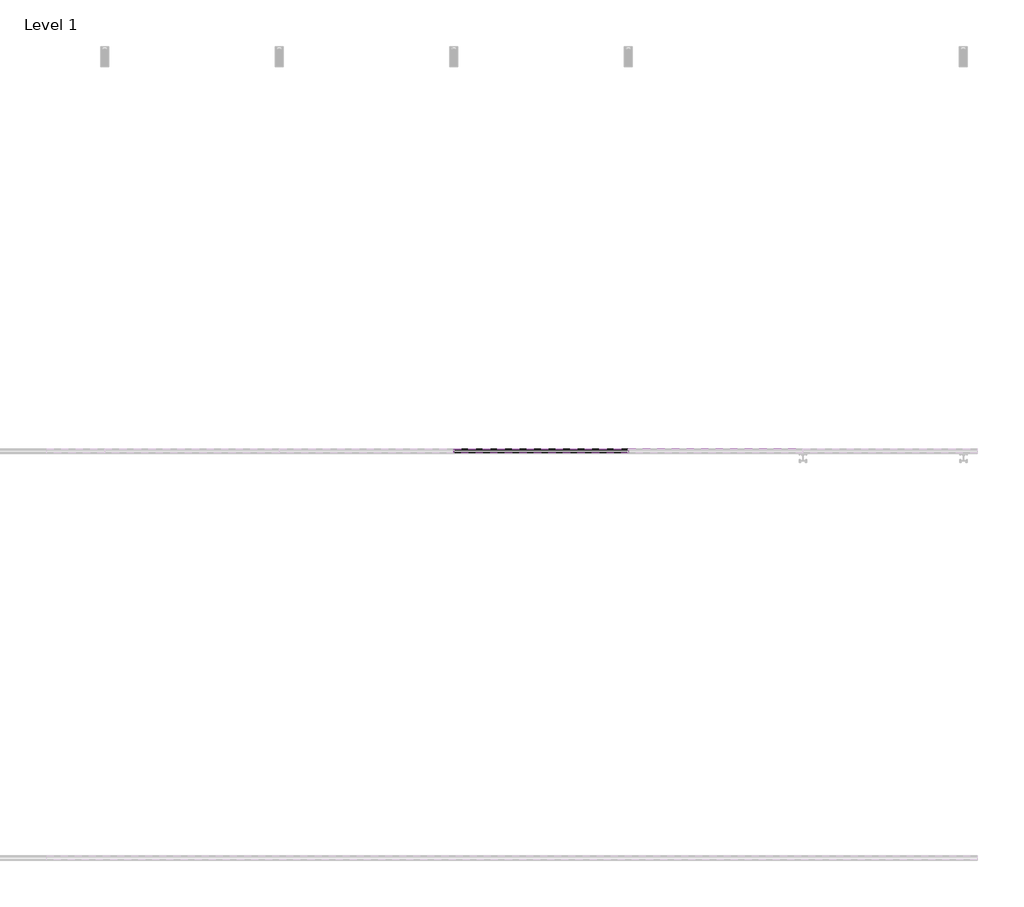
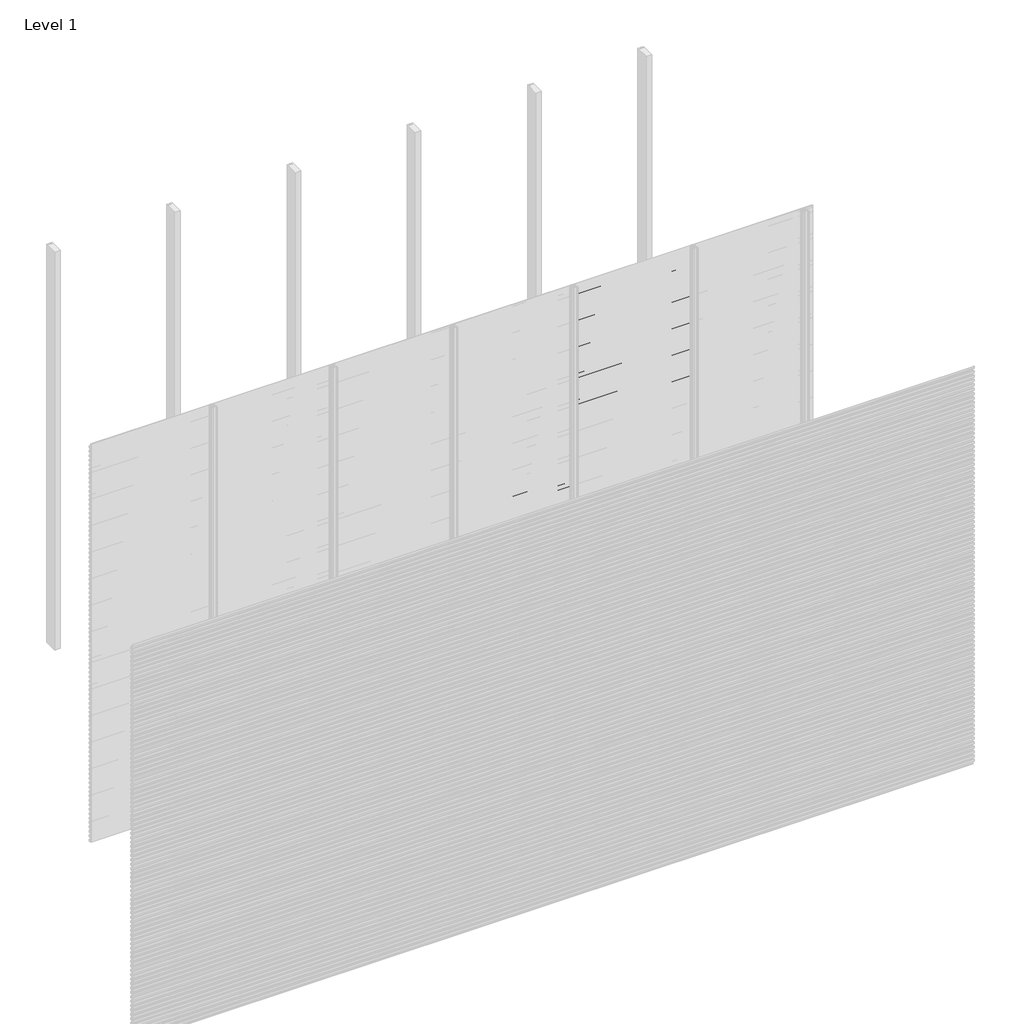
# One storey, part 29 of 96: 77 proxies.
"""IFC4 building model written with IfcOpenShell, lengths in millimetres."""

from ifc_helpers import new_model, si_unit, frame, origin, place, context, project, spatial, polyline, outline, extrude, element, save

model = new_model("IFC4")

# Units and contexts
model_context = context("Model", 3, world=origin())
ifc_project = project(units=[si_unit("LENGTHUNIT", "METRE", prefix="MILLI")], contexts=[model_context])

# Site, building, storey
site = spatial("IfcSite", under=ifc_project)
building = spatial("IfcBuilding", under=site)
storey = spatial("IfcBuildingStorey", under=building, Name="Level 1", Elevation=0.0)

# Proxies
placement = place(None, origin())
element("IfcBuildingElementProxy", 1, Name="Wall Sweeps", at=placement, inside=storey, context=model_context, shape_type="SweptSolid", body=[
    extrude(outline(polyline([(-41977.6, 1539.8655033), (-41977.6, 1525.5779188), (-41982.4114965, 1522.8), (-41982.4114965, 1524.0701706), (-41978.85, 1526.1264016), (-41978.85, 1539.1437382), (-41998.0, 1550.2000799), (-41998.0, 1565.1), (-41996.75, 1565.1), (-41996.75, 1550.9217609), (-41977.6, 1539.8655033)])), frame((3428.5714286, 0.0, 0.0), z_axis=(1.0, 0.0, 0.0), x_axis=(0.0, 1.0, 0.0)), (0.0, 0.0, 1.0), 857.1428571),
])
element("IfcBuildingElementProxy", 2, Name="Wall Sweeps", at=placement, inside=storey, context=model_context, shape_type="SweptSolid", body=[
    extrude(outline(polyline([(-41977.6, 1506.5655033), (-41977.6, 1492.2779188), (-41982.4114965, 1489.5), (-41982.4114965, 1490.7701706), (-41978.85, 1492.8264016), (-41978.85, 1505.8437382), (-41998.0, 1516.9000799), (-41998.0, 1531.8), (-41996.75, 1531.8), (-41996.75, 1517.6217609), (-41977.6, 1506.5655033)])), frame((3428.5714286, 0.0, 0.0), z_axis=(1.0, 0.0, 0.0), x_axis=(0.0, 1.0, 0.0)), (0.0, 0.0, 1.0), 857.1428571),
])
element("IfcBuildingElementProxy", 3, Name="Wall Sweeps", at=placement, inside=storey, context=model_context, shape_type="SweptSolid", body=[
    extrude(outline(polyline([(-41977.6, 1473.2655033), (-41977.6, 1458.9779188), (-41982.4114965, 1456.2), (-41982.4114965, 1457.4701706), (-41978.85, 1459.5264016), (-41978.85, 1472.5437382), (-41998.0, 1483.6000799), (-41998.0, 1498.5), (-41996.75, 1498.5), (-41996.75, 1484.3217609), (-41977.6, 1473.2655033)])), frame((3428.5714286, 0.0, 0.0), z_axis=(1.0, 0.0, 0.0), x_axis=(0.0, 1.0, 0.0)), (0.0, 0.0, 1.0), 857.1428571),
])
element("IfcBuildingElementProxy", 4, Name="Wall Sweeps", at=placement, inside=storey, context=model_context, shape_type="SweptSolid", body=[
    extrude(outline(polyline([(-41977.6, 1439.9655033), (-41977.6, 1425.6779188), (-41982.4114965, 1422.9), (-41982.4114965, 1424.1701706), (-41978.85, 1426.2264016), (-41978.85, 1439.2437382), (-41998.0, 1450.3000799), (-41998.0, 1465.2), (-41996.75, 1465.2), (-41996.75, 1451.0217609), (-41977.6, 1439.9655033)])), frame((3428.5714286, 0.0, 0.0), z_axis=(1.0, 0.0, 0.0), x_axis=(0.0, 1.0, 0.0)), (0.0, 0.0, 1.0), 857.1428571),
])
element("IfcBuildingElementProxy", 5, Name="Wall Sweeps", at=placement, inside=storey, context=model_context, shape_type="SweptSolid", body=[
    extrude(outline(polyline([(-41977.6, 1406.6655033), (-41977.6, 1392.3779188), (-41982.4114965, 1389.6), (-41982.4114965, 1390.8701706), (-41978.85, 1392.9264016), (-41978.85, 1405.9437382), (-41998.0, 1417.0000799), (-41998.0, 1431.9), (-41996.75, 1431.9), (-41996.75, 1417.7217609), (-41977.6, 1406.6655033)])), frame((3428.5714286, 0.0, 0.0), z_axis=(1.0, 0.0, 0.0), x_axis=(0.0, 1.0, 0.0)), (0.0, 0.0, 1.0), 857.1428571),
])
element("IfcBuildingElementProxy", 6, Name="Wall Sweeps", at=placement, inside=storey, context=model_context, shape_type="SweptSolid", body=[
    extrude(outline(polyline([(-41977.6, 1373.3655033), (-41977.6, 1359.0779188), (-41982.4114965, 1356.3), (-41982.4114965, 1357.5701706), (-41978.85, 1359.6264016), (-41978.85, 1372.6437382), (-41998.0, 1383.7000799), (-41998.0, 1398.6), (-41996.75, 1398.6), (-41996.75, 1384.4217609), (-41977.6, 1373.3655033)])), frame((3428.5714286, 0.0, 0.0), z_axis=(1.0, 0.0, 0.0), x_axis=(0.0, 1.0, 0.0)), (0.0, 0.0, 1.0), 857.1428571),
])
element("IfcBuildingElementProxy", 7, Name="Wall Sweeps", at=placement, inside=storey, context=model_context, shape_type="SweptSolid", body=[
    extrude(outline(polyline([(-41977.6, 1340.0655033), (-41977.6, 1325.7779188), (-41982.4114965, 1323.0), (-41982.4114965, 1324.2701706), (-41978.85, 1326.3264016), (-41978.85, 1339.3437382), (-41998.0, 1350.4000799), (-41998.0, 1365.3), (-41996.75, 1365.3), (-41996.75, 1351.1217609), (-41977.6, 1340.0655033)])), frame((3428.5714286, 0.0, 0.0), z_axis=(1.0, 0.0, 0.0), x_axis=(0.0, 1.0, 0.0)), (0.0, 0.0, 1.0), 857.1428571),
])
element("IfcBuildingElementProxy", 8, Name="Wall Sweeps", at=placement, inside=storey, context=model_context, shape_type="SweptSolid", body=[
    extrude(outline(polyline([(-41977.6, 1306.7655033), (-41977.6, 1292.4779188), (-41982.4114965, 1289.7), (-41982.4114965, 1290.9701706), (-41978.85, 1293.0264016), (-41978.85, 1306.0437382), (-41998.0, 1317.1000799), (-41998.0, 1332.0), (-41996.75, 1332.0), (-41996.75, 1317.8217609), (-41977.6, 1306.7655033)])), frame((3428.5714286, 0.0, 0.0), z_axis=(1.0, 0.0, 0.0), x_axis=(0.0, 1.0, 0.0)), (0.0, 0.0, 1.0), 857.1428571),
])
element("IfcBuildingElementProxy", 9, Name="Wall Sweeps", at=placement, inside=storey, context=model_context, shape_type="SweptSolid", body=[
    extrude(outline(polyline([(-41977.6, 1273.4655033), (-41977.6, 1259.1779188), (-41982.4114965, 1256.4), (-41982.4114965, 1257.6701706), (-41978.85, 1259.7264016), (-41978.85, 1272.7437382), (-41998.0, 1283.8000799), (-41998.0, 1298.7), (-41996.75, 1298.7), (-41996.75, 1284.5217609), (-41977.6, 1273.4655033)])), frame((3428.5714286, 0.0, 0.0), z_axis=(1.0, 0.0, 0.0), x_axis=(0.0, 1.0, 0.0)), (0.0, 0.0, 1.0), 857.1428571),
])
element("IfcBuildingElementProxy", 10, Name="Wall Sweeps", at=placement, inside=storey, context=model_context, shape_type="SweptSolid", body=[
    extrude(outline(polyline([(-41977.6, 1240.1655033), (-41977.6, 1225.8779188), (-41982.4114965, 1223.1), (-41982.4114965, 1224.3701706), (-41978.85, 1226.4264016), (-41978.85, 1239.4437382), (-41998.0, 1250.5000799), (-41998.0, 1265.4), (-41996.75, 1265.4), (-41996.75, 1251.2217609), (-41977.6, 1240.1655033)])), frame((3428.5714286, 0.0, 0.0), z_axis=(1.0, 0.0, 0.0), x_axis=(0.0, 1.0, 0.0)), (0.0, 0.0, 1.0), 857.1428571),
])
element("IfcBuildingElementProxy", 11, Name="Wall Sweeps", at=placement, inside=storey, context=model_context, shape_type="SweptSolid", body=[
    extrude(outline(polyline([(-41977.6, 1206.8655033), (-41977.6, 1192.5779188), (-41982.4114965, 1189.8), (-41982.4114965, 1191.0701706), (-41978.85, 1193.1264016), (-41978.85, 1206.1437382), (-41998.0, 1217.2000799), (-41998.0, 1232.1), (-41996.75, 1232.1), (-41996.75, 1217.9217609), (-41977.6, 1206.8655033)])), frame((3428.5714286, 0.0, 0.0), z_axis=(1.0, 0.0, 0.0), x_axis=(0.0, 1.0, 0.0)), (0.0, 0.0, 1.0), 857.1428571),
])
element("IfcBuildingElementProxy", 12, Name="Wall Sweeps", at=placement, inside=storey, context=model_context, shape_type="SweptSolid", body=[
    extrude(outline(polyline([(-41977.6, 1173.5655033), (-41977.6, 1159.2779188), (-41982.4114965, 1156.5), (-41982.4114965, 1157.7701706), (-41978.85, 1159.8264016), (-41978.85, 1172.8437382), (-41998.0, 1183.9000799), (-41998.0, 1198.8), (-41996.75, 1198.8), (-41996.75, 1184.6217609), (-41977.6, 1173.5655033)])), frame((3428.5714286, 0.0, 0.0), z_axis=(1.0, 0.0, 0.0), x_axis=(0.0, 1.0, 0.0)), (0.0, 0.0, 1.0), 857.1428571),
])
element("IfcBuildingElementProxy", 13, Name="Wall Sweeps", at=placement, inside=storey, context=model_context, shape_type="SweptSolid", body=[
    extrude(outline(polyline([(-41977.6, 1140.2655033), (-41977.6, 1125.9779188), (-41982.4114965, 1123.2), (-41982.4114965, 1124.4701706), (-41978.85, 1126.5264016), (-41978.85, 1139.5437382), (-41998.0, 1150.6000799), (-41998.0, 1165.5), (-41996.75, 1165.5), (-41996.75, 1151.3217609), (-41977.6, 1140.2655033)])), frame((3428.5714286, 0.0, 0.0), z_axis=(1.0, 0.0, 0.0), x_axis=(0.0, 1.0, 0.0)), (0.0, 0.0, 1.0), 857.1428571),
])
element("IfcBuildingElementProxy", 14, Name="Wall Sweeps", at=placement, inside=storey, context=model_context, shape_type="SweptSolid", body=[
    extrude(outline(polyline([(-41977.6, 1106.9655033), (-41977.6, 1092.6779188), (-41982.4114965, 1089.9), (-41982.4114965, 1091.1701706), (-41978.85, 1093.2264016), (-41978.85, 1106.2437382), (-41998.0, 1117.3000799), (-41998.0, 1132.2), (-41996.75, 1132.2), (-41996.75, 1118.0217609), (-41977.6, 1106.9655033)])), frame((3428.5714286, 0.0, 0.0), z_axis=(1.0, 0.0, 0.0), x_axis=(0.0, 1.0, 0.0)), (0.0, 0.0, 1.0), 857.1428571),
])
element("IfcBuildingElementProxy", 15, Name="Wall Sweeps", at=placement, inside=storey, context=model_context, shape_type="SweptSolid", body=[
    extrude(outline(polyline([(-41977.6, 1073.6655033), (-41977.6, 1059.3779188), (-41982.4114965, 1056.6), (-41982.4114965, 1057.8701706), (-41978.85, 1059.9264016), (-41978.85, 1072.9437382), (-41998.0, 1084.0000799), (-41998.0, 1098.9), (-41996.75, 1098.9), (-41996.75, 1084.7217609), (-41977.6, 1073.6655033)])), frame((3428.5714286, 0.0, 0.0), z_axis=(1.0, 0.0, 0.0), x_axis=(0.0, 1.0, 0.0)), (0.0, 0.0, 1.0), 857.1428571),
])
element("IfcBuildingElementProxy", 16, Name="Wall Sweeps", at=placement, inside=storey, context=model_context, shape_type="SweptSolid", body=[
    extrude(outline(polyline([(-41977.6, 1040.3655033), (-41977.6, 1026.0779188), (-41982.4114965, 1023.3), (-41982.4114965, 1024.5701706), (-41978.85, 1026.6264016), (-41978.85, 1039.6437382), (-41998.0, 1050.7000799), (-41998.0, 1065.6), (-41996.75, 1065.6), (-41996.75, 1051.4217609), (-41977.6, 1040.3655033)])), frame((3428.5714286, 0.0, 0.0), z_axis=(1.0, 0.0, 0.0), x_axis=(0.0, 1.0, 0.0)), (0.0, 0.0, 1.0), 857.1428571),
])
element("IfcBuildingElementProxy", 17, Name="Wall Sweeps", at=placement, inside=storey, context=model_context, shape_type="SweptSolid", body=[
    extrude(outline(polyline([(-41977.6, 1007.0655033), (-41977.6, 992.7779188), (-41982.4114965, 990.0), (-41982.4114965, 991.2701706), (-41978.85, 993.3264016), (-41978.85, 1006.3437382), (-41998.0, 1017.4000799), (-41998.0, 1032.3), (-41996.75, 1032.3), (-41996.75, 1018.1217609), (-41977.6, 1007.0655033)])), frame((3428.5714286, 0.0, 0.0), z_axis=(1.0, 0.0, 0.0), x_axis=(0.0, 1.0, 0.0)), (0.0, 0.0, 1.0), 857.1428571),
])
element("IfcBuildingElementProxy", 18, Name="Wall Sweeps", at=placement, inside=storey, context=model_context, shape_type="SweptSolid", body=[
    extrude(outline(polyline([(-41977.6, 973.7655033), (-41977.6, 959.4779188), (-41982.4114965, 956.7), (-41982.4114965, 957.9701706), (-41978.85, 960.0264016), (-41978.85, 973.0437382), (-41998.0, 984.1000799), (-41998.0, 999.0), (-41996.75, 999.0), (-41996.75, 984.8217609), (-41977.6, 973.7655033)])), frame((3428.5714286, 0.0, 0.0), z_axis=(1.0, 0.0, 0.0), x_axis=(0.0, 1.0, 0.0)), (0.0, 0.0, 1.0), 857.1428571),
])
element("IfcBuildingElementProxy", 19, Name="Wall Sweeps", at=placement, inside=storey, context=model_context, shape_type="SweptSolid", body=[
    extrude(outline(polyline([(-41977.6, 940.4655033), (-41977.6, 926.1779188), (-41982.4114965, 923.4), (-41982.4114965, 924.6701706), (-41978.85, 926.7264016), (-41978.85, 939.7437382), (-41998.0, 950.8000799), (-41998.0, 965.7), (-41996.75, 965.7), (-41996.75, 951.5217609), (-41977.6, 940.4655033)])), frame((3428.5714286, 0.0, 0.0), z_axis=(1.0, 0.0, 0.0), x_axis=(0.0, 1.0, 0.0)), (0.0, 0.0, 1.0), 857.1428571),
])
element("IfcBuildingElementProxy", 20, Name="Wall Sweeps", at=placement, inside=storey, context=model_context, shape_type="SweptSolid", body=[
    extrude(outline(polyline([(-41977.6, 907.1655033), (-41977.6, 892.8779188), (-41982.4114965, 890.1), (-41982.4114965, 891.3701706), (-41978.85, 893.4264016), (-41978.85, 906.4437382), (-41998.0, 917.5000799), (-41998.0, 932.4), (-41996.75, 932.4), (-41996.75, 918.2217609), (-41977.6, 907.1655033)])), frame((3428.5714286, 0.0, 0.0), z_axis=(1.0, 0.0, 0.0), x_axis=(0.0, 1.0, 0.0)), (0.0, 0.0, 1.0), 857.1428571),
])
element("IfcBuildingElementProxy", 21, Name="Wall Sweeps", at=placement, inside=storey, context=model_context, shape_type="SweptSolid", body=[
    extrude(outline(polyline([(-41977.6, 873.8655033), (-41977.6, 859.5779188), (-41982.4114965, 856.8), (-41982.4114965, 858.0701706), (-41978.85, 860.1264016), (-41978.85, 873.1437382), (-41998.0, 884.2000799), (-41998.0, 899.1), (-41996.75, 899.1), (-41996.75, 884.9217609), (-41977.6, 873.8655033)])), frame((3428.5714286, 0.0, 0.0), z_axis=(1.0, 0.0, 0.0), x_axis=(0.0, 1.0, 0.0)), (0.0, 0.0, 1.0), 857.1428571),
])
element("IfcBuildingElementProxy", 22, Name="Wall Sweeps", at=placement, inside=storey, context=model_context, shape_type="SweptSolid", body=[
    extrude(outline(polyline([(-41977.6, 840.5655033), (-41977.6, 826.2779188), (-41982.4114965, 823.5), (-41982.4114965, 824.7701706), (-41978.85, 826.8264016), (-41978.85, 839.8437382), (-41998.0, 850.9000799), (-41998.0, 865.8), (-41996.75, 865.8), (-41996.75, 851.6217609), (-41977.6, 840.5655033)])), frame((3428.5714286, 0.0, 0.0), z_axis=(1.0, 0.0, 0.0), x_axis=(0.0, 1.0, 0.0)), (0.0, 0.0, 1.0), 857.1428571),
])
element("IfcBuildingElementProxy", 23, Name="Wall Sweeps", at=placement, inside=storey, context=model_context, shape_type="SweptSolid", body=[
    extrude(outline(polyline([(-41977.6, 807.2655033), (-41977.6, 792.9779188), (-41982.4114965, 790.2), (-41982.4114965, 791.4701706), (-41978.85, 793.5264016), (-41978.85, 806.5437382), (-41998.0, 817.6000799), (-41998.0, 832.5), (-41996.75, 832.5), (-41996.75, 818.3217609), (-41977.6, 807.2655033)])), frame((3428.5714286, 0.0, 0.0), z_axis=(1.0, 0.0, 0.0), x_axis=(0.0, 1.0, 0.0)), (0.0, 0.0, 1.0), 857.1428571),
])
element("IfcBuildingElementProxy", 24, Name="Wall Sweeps", at=placement, inside=storey, context=model_context, shape_type="SweptSolid", body=[
    extrude(outline(polyline([(-41977.6, 773.9655033), (-41977.6, 759.6779188), (-41982.4114965, 756.9), (-41982.4114965, 758.1701706), (-41978.85, 760.2264016), (-41978.85, 773.2437382), (-41998.0, 784.3000799), (-41998.0, 799.2), (-41996.75, 799.2), (-41996.75, 785.0217609), (-41977.6, 773.9655033)])), frame((3428.5714286, 0.0, 0.0), z_axis=(1.0, 0.0, 0.0), x_axis=(0.0, 1.0, 0.0)), (0.0, 0.0, 1.0), 857.1428571),
])
element("IfcBuildingElementProxy", 25, Name="Wall Sweeps", at=placement, inside=storey, context=model_context, shape_type="SweptSolid", body=[
    extrude(outline(polyline([(-41977.6, 740.6655033), (-41977.6, 726.3779188), (-41982.4114965, 723.6), (-41982.4114965, 724.8701706), (-41978.85, 726.9264016), (-41978.85, 739.9437382), (-41998.0, 751.0000799), (-41998.0, 765.9), (-41996.75, 765.9), (-41996.75, 751.7217609), (-41977.6, 740.6655033)])), frame((3428.5714286, 0.0, 0.0), z_axis=(1.0, 0.0, 0.0), x_axis=(0.0, 1.0, 0.0)), (0.0, 0.0, 1.0), 857.1428571),
])
element("IfcBuildingElementProxy", 26, Name="Wall Sweeps", at=placement, inside=storey, context=model_context, shape_type="SweptSolid", body=[
    extrude(outline(polyline([(-41977.6, 707.3655033), (-41977.6, 693.0779188), (-41982.4114965, 690.3), (-41982.4114965, 691.5701706), (-41978.85, 693.6264016), (-41978.85, 706.6437382), (-41998.0, 717.7000799), (-41998.0, 732.6), (-41996.75, 732.6), (-41996.75, 718.4217609), (-41977.6, 707.3655033)])), frame((3428.5714286, 0.0, 0.0), z_axis=(1.0, 0.0, 0.0), x_axis=(0.0, 1.0, 0.0)), (0.0, 0.0, 1.0), 857.1428571),
])
element("IfcBuildingElementProxy", 27, Name="Wall Sweeps", at=placement, inside=storey, context=model_context, shape_type="SweptSolid", body=[
    extrude(outline(polyline([(-41977.6, 674.0655033), (-41977.6, 659.7779188), (-41982.4114965, 657.0), (-41982.4114965, 658.2701706), (-41978.85, 660.3264016), (-41978.85, 673.3437382), (-41998.0, 684.4000799), (-41998.0, 699.3), (-41996.75, 699.3), (-41996.75, 685.1217609), (-41977.6, 674.0655033)])), frame((3428.5714286, 0.0, 0.0), z_axis=(1.0, 0.0, 0.0), x_axis=(0.0, 1.0, 0.0)), (0.0, 0.0, 1.0), 857.1428571),
])
element("IfcBuildingElementProxy", 28, Name="Wall Sweeps", at=placement, inside=storey, context=model_context, shape_type="SweptSolid", body=[
    extrude(outline(polyline([(-41977.6, 640.7655033), (-41977.6, 626.4779188), (-41982.4114965, 623.7), (-41982.4114965, 624.9701706), (-41978.85, 627.0264016), (-41978.85, 640.0437382), (-41998.0, 651.1000799), (-41998.0, 666.0), (-41996.75, 666.0), (-41996.75, 651.8217609), (-41977.6, 640.7655033)])), frame((3428.5714286, 0.0, 0.0), z_axis=(1.0, 0.0, 0.0), x_axis=(0.0, 1.0, 0.0)), (0.0, 0.0, 1.0), 857.1428571),
])
element("IfcBuildingElementProxy", 29, Name="Wall Sweeps", at=placement, inside=storey, context=model_context, shape_type="SweptSolid", body=[
    extrude(outline(polyline([(-41977.6, 607.4655033), (-41977.6, 593.1779188), (-41982.4114965, 590.4), (-41982.4114965, 591.6701706), (-41978.85, 593.7264016), (-41978.85, 606.7437382), (-41998.0, 617.8000799), (-41998.0, 632.7), (-41996.75, 632.7), (-41996.75, 618.5217609), (-41977.6, 607.4655033)])), frame((3428.5714286, 0.0, 0.0), z_axis=(1.0, 0.0, 0.0), x_axis=(0.0, 1.0, 0.0)), (0.0, 0.0, 1.0), 857.1428571),
])
element("IfcBuildingElementProxy", 30, Name="Wall Sweeps", at=placement, inside=storey, context=model_context, shape_type="SweptSolid", body=[
    extrude(outline(polyline([(-41977.6, 574.1655033), (-41977.6, 559.8779188), (-41982.4114965, 557.1), (-41982.4114965, 558.3701706), (-41978.85, 560.4264016), (-41978.85, 573.4437382), (-41998.0, 584.5000799), (-41998.0, 599.4), (-41996.75, 599.4), (-41996.75, 585.2217609), (-41977.6, 574.1655033)])), frame((3428.5714286, 0.0, 0.0), z_axis=(1.0, 0.0, 0.0), x_axis=(0.0, 1.0, 0.0)), (0.0, 0.0, 1.0), 857.1428571),
])
element("IfcBuildingElementProxy", 31, Name="Wall Sweeps", at=placement, inside=storey, context=model_context, shape_type="SweptSolid", body=[
    extrude(outline(polyline([(-41977.6, 540.8655033), (-41977.6, 526.5779188), (-41982.4114965, 523.8), (-41982.4114965, 525.0701706), (-41978.85, 527.1264016), (-41978.85, 540.1437382), (-41998.0, 551.2000799), (-41998.0, 566.1), (-41996.75, 566.1), (-41996.75, 551.9217609), (-41977.6, 540.8655033)])), frame((3428.5714286, 0.0, 0.0), z_axis=(1.0, 0.0, 0.0), x_axis=(0.0, 1.0, 0.0)), (0.0, 0.0, 1.0), 857.1428571),
])
element("IfcBuildingElementProxy", 32, Name="Wall Sweeps", at=placement, inside=storey, context=model_context, shape_type="SweptSolid", body=[
    extrude(outline(polyline([(-41977.6, 507.5655033), (-41977.6, 493.2779188), (-41982.4114965, 490.5), (-41982.4114965, 491.7701706), (-41978.85, 493.8264016), (-41978.85, 506.8437382), (-41998.0, 517.9000799), (-41998.0, 532.8), (-41996.75, 532.8), (-41996.75, 518.6217609), (-41977.6, 507.5655033)])), frame((3428.5714286, 0.0, 0.0), z_axis=(1.0, 0.0, 0.0), x_axis=(0.0, 1.0, 0.0)), (0.0, 0.0, 1.0), 857.1428571),
])
element("IfcBuildingElementProxy", 33, Name="Wall Sweeps", at=placement, inside=storey, context=model_context, shape_type="SweptSolid", body=[
    extrude(outline(polyline([(-41977.6, 474.2655033), (-41977.6, 459.9779188), (-41982.4114965, 457.2), (-41982.4114965, 458.4701706), (-41978.85, 460.5264016), (-41978.85, 473.5437382), (-41998.0, 484.6000799), (-41998.0, 499.5), (-41996.75, 499.5), (-41996.75, 485.3217609), (-41977.6, 474.2655033)])), frame((3428.5714286, 0.0, 0.0), z_axis=(1.0, 0.0, 0.0), x_axis=(0.0, 1.0, 0.0)), (0.0, 0.0, 1.0), 857.1428571),
])
element("IfcBuildingElementProxy", 34, Name="Wall Sweeps", at=placement, inside=storey, context=model_context, shape_type="SweptSolid", body=[
    extrude(outline(polyline([(-41977.6, 440.9655033), (-41977.6, 426.6779188), (-41982.4114965, 423.9), (-41982.4114965, 425.1701706), (-41978.85, 427.2264016), (-41978.85, 440.2437382), (-41998.0, 451.3000799), (-41998.0, 466.2), (-41996.75, 466.2), (-41996.75, 452.0217609), (-41977.6, 440.9655033)])), frame((3428.5714286, 0.0, 0.0), z_axis=(1.0, 0.0, 0.0), x_axis=(0.0, 1.0, 0.0)), (0.0, 0.0, 1.0), 857.1428571),
])
element("IfcBuildingElementProxy", 35, Name="Wall Sweeps", at=placement, inside=storey, context=model_context, shape_type="SweptSolid", body=[
    extrude(outline(polyline([(-41977.6, 407.6655033), (-41977.6, 393.3779188), (-41982.4114965, 390.6), (-41982.4114965, 391.8701706), (-41978.85, 393.9264016), (-41978.85, 406.9437382), (-41998.0, 418.0000799), (-41998.0, 432.9), (-41996.75, 432.9), (-41996.75, 418.7217609), (-41977.6, 407.6655033)])), frame((3428.5714286, 0.0, 0.0), z_axis=(1.0, 0.0, 0.0), x_axis=(0.0, 1.0, 0.0)), (0.0, 0.0, 1.0), 857.1428571),
])
element("IfcBuildingElementProxy", 36, Name="Wall Sweeps", at=placement, inside=storey, context=model_context, shape_type="SweptSolid", body=[
    extrude(outline(polyline([(-41977.6, 374.3655033), (-41977.6, 360.0779188), (-41982.4114965, 357.3), (-41982.4114965, 358.5701706), (-41978.85, 360.6264016), (-41978.85, 373.6437382), (-41998.0, 384.7000799), (-41998.0, 399.6), (-41996.75, 399.6), (-41996.75, 385.4217609), (-41977.6, 374.3655033)])), frame((3428.5714286, 0.0, 0.0), z_axis=(1.0, 0.0, 0.0), x_axis=(0.0, 1.0, 0.0)), (0.0, 0.0, 1.0), 857.1428571),
])
element("IfcBuildingElementProxy", 37, Name="Wall Sweeps", at=placement, inside=storey, context=model_context, shape_type="SweptSolid", body=[
    extrude(outline(polyline([(-41977.6, 341.0655033), (-41977.6, 326.7779188), (-41982.4114965, 324.0), (-41982.4114965, 325.2701706), (-41978.85, 327.3264016), (-41978.85, 340.3437382), (-41998.0, 351.4000799), (-41998.0, 366.3), (-41996.75, 366.3), (-41996.75, 352.1217609), (-41977.6, 341.0655033)])), frame((3428.5714286, 0.0, 0.0), z_axis=(1.0, 0.0, 0.0), x_axis=(0.0, 1.0, 0.0)), (0.0, 0.0, 1.0), 857.1428571),
])
element("IfcBuildingElementProxy", 38, Name="Wall Sweeps", at=placement, inside=storey, context=model_context, shape_type="SweptSolid", body=[
    extrude(outline(polyline([(-41977.6, 307.7655033), (-41977.6, 293.4779188), (-41982.4114965, 290.7), (-41982.4114965, 291.9701706), (-41978.85, 294.0264016), (-41978.85, 307.0437382), (-41998.0, 318.1000799), (-41998.0, 333.0), (-41996.75, 333.0), (-41996.75, 318.8217609), (-41977.6, 307.7655033)])), frame((3428.5714286, 0.0, 0.0), z_axis=(1.0, 0.0, 0.0), x_axis=(0.0, 1.0, 0.0)), (0.0, 0.0, 1.0), 857.1428571),
])
element("IfcBuildingElementProxy", 39, Name="Wall Sweeps", at=placement, inside=storey, context=model_context, shape_type="SweptSolid", body=[
    extrude(outline(polyline([(-41977.6, 274.4655033), (-41977.6, 260.1779188), (-41982.4114965, 257.4), (-41982.4114965, 258.6701706), (-41978.85, 260.7264016), (-41978.85, 273.7437382), (-41998.0, 284.8000799), (-41998.0, 299.7), (-41996.75, 299.7), (-41996.75, 285.5217609), (-41977.6, 274.4655033)])), frame((3428.5714286, 0.0, 0.0), z_axis=(1.0, 0.0, 0.0), x_axis=(0.0, 1.0, 0.0)), (0.0, 0.0, 1.0), 857.1428571),
])
element("IfcBuildingElementProxy", 40, Name="Wall Sweeps", at=placement, inside=storey, context=model_context, shape_type="SweptSolid", body=[
    extrude(outline(polyline([(-41977.6, 241.1655033), (-41977.6, 226.8779188), (-41982.4114965, 224.1), (-41982.4114965, 225.3701706), (-41978.85, 227.4264016), (-41978.85, 240.4437382), (-41998.0, 251.5000799), (-41998.0, 266.4), (-41996.75, 266.4), (-41996.75, 252.2217609), (-41977.6, 241.1655033)])), frame((3428.5714286, 0.0, 0.0), z_axis=(1.0, 0.0, 0.0), x_axis=(0.0, 1.0, 0.0)), (0.0, 0.0, 1.0), 857.1428571),
])
element("IfcBuildingElementProxy", 41, Name="Wall Sweeps", at=placement, inside=storey, context=model_context, shape_type="SweptSolid", body=[
    extrude(outline(polyline([(-41977.6, 207.8655033), (-41977.6, 193.5779188), (-41982.4114965, 190.8), (-41982.4114965, 192.0701706), (-41978.85, 194.1264016), (-41978.85, 207.1437382), (-41998.0, 218.2000799), (-41998.0, 233.1), (-41996.75, 233.1), (-41996.75, 218.9217609), (-41977.6, 207.8655033)])), frame((3428.5714286, 0.0, 0.0), z_axis=(1.0, 0.0, 0.0), x_axis=(0.0, 1.0, 0.0)), (0.0, 0.0, 1.0), 857.1428571),
])
element("IfcBuildingElementProxy", 42, Name="Wall Sweeps", at=placement, inside=storey, context=model_context, shape_type="SweptSolid", body=[
    extrude(outline(polyline([(-41977.6, 174.5655033), (-41977.6, 160.2779188), (-41982.4114965, 157.5), (-41982.4114965, 158.7701706), (-41978.85, 160.8264016), (-41978.85, 173.8437382), (-41998.0, 184.9000799), (-41998.0, 199.8), (-41996.75, 199.8), (-41996.75, 185.6217609), (-41977.6, 174.5655033)])), frame((3428.5714286, 0.0, 0.0), z_axis=(1.0, 0.0, 0.0), x_axis=(0.0, 1.0, 0.0)), (0.0, 0.0, 1.0), 857.1428571),
])
element("IfcBuildingElementProxy", 43, Name="Wall Sweeps", at=placement, inside=storey, context=model_context, shape_type="SweptSolid", body=[
    extrude(outline(polyline([(-41977.6, 141.2655033), (-41977.6, 126.9779188), (-41982.4114965, 124.2), (-41982.4114965, 125.4701706), (-41978.85, 127.5264016), (-41978.85, 140.5437382), (-41998.0, 151.6000799), (-41998.0, 166.5), (-41996.75, 166.5), (-41996.75, 152.3217609), (-41977.6, 141.2655033)])), frame((3428.5714286, 0.0, 0.0), z_axis=(1.0, 0.0, 0.0), x_axis=(0.0, 1.0, 0.0)), (0.0, 0.0, 1.0), 857.1428571),
])
element("IfcBuildingElementProxy", 44, Name="Wall Sweeps", at=placement, inside=storey, context=model_context, shape_type="SweptSolid", body=[
    extrude(outline(polyline([(-41977.6, 107.9655033), (-41977.6, 93.6779188), (-41982.4114965, 90.9), (-41982.4114965, 92.1701706), (-41978.85, 94.2264016), (-41978.85, 107.2437382), (-41998.0, 118.3000799), (-41998.0, 133.2), (-41996.75, 133.2), (-41996.75, 119.0217609), (-41977.6, 107.9655033)])), frame((3428.5714286, 0.0, 0.0), z_axis=(1.0, 0.0, 0.0), x_axis=(0.0, 1.0, 0.0)), (0.0, 0.0, 1.0), 857.1428571),
])
element("IfcBuildingElementProxy", 45, Name="Wall Sweeps", at=placement, inside=storey, context=model_context, shape_type="SweptSolid", body=[
    extrude(outline(polyline([(-41977.6, 74.6655033), (-41977.6, 60.3779188), (-41982.4114965, 57.6), (-41982.4114965, 58.8701706), (-41978.85, 60.9264016), (-41978.85, 73.9437382), (-41998.0, 85.0000799), (-41998.0, 99.9), (-41996.75, 99.9), (-41996.75, 85.7217609), (-41977.6, 74.6655033)])), frame((3428.5714286, 0.0, 0.0), z_axis=(1.0, 0.0, 0.0), x_axis=(0.0, 1.0, 0.0)), (0.0, 0.0, 1.0), 857.1428571),
])
element("IfcBuildingElementProxy", 46, Name="Wall Sweeps", at=placement, inside=storey, context=model_context, shape_type="SweptSolid", body=[
    extrude(outline(polyline([(-41977.6, 41.3655033), (-41977.6, 27.0779188), (-41982.4114965, 24.3), (-41982.4114965, 25.5701706), (-41978.85, 27.6264016), (-41978.85, 40.6437382), (-41998.0, 51.7000799), (-41998.0, 66.6), (-41996.75, 66.6), (-41996.75, 52.4217609), (-41977.6, 41.3655033)])), frame((3428.5714286, 0.0, 0.0), z_axis=(1.0, 0.0, 0.0), x_axis=(0.0, 1.0, 0.0)), (0.0, 0.0, 1.0), 857.1428571),
])
element("IfcBuildingElementProxy", 47, Name="Wall Sweeps", at=placement, inside=storey, context=model_context, shape_type="SweptSolid", body=[
    extrude(outline(polyline([(-41977.6, 8.0655033), (-41977.6, -6.2220812), (-41982.4114965, -9.0), (-41982.4114965, -7.7298294), (-41978.85, -5.6735984), (-41978.85, 7.3437382), (-41998.0, 18.4000799), (-41998.0, 33.3), (-41996.75, 33.3), (-41996.75, 19.1217609), (-41977.6, 8.0655033)])), frame((3428.5714286, 0.0, 0.0), z_axis=(1.0, 0.0, 0.0), x_axis=(0.0, 1.0, 0.0)), (0.0, 0.0, 1.0), 857.1428571),
])
element("IfcBuildingElementProxy", 48, Name="Wall Sweeps", at=placement, inside=storey, context=model_context, shape_type="SweptSolid", body=[
    extrude(outline(polyline([(-41977.6, 2971.7655033), (-41977.6, 2957.4779188), (-41982.4114965, 2954.7), (-41982.4114965, 2955.9701706), (-41978.85, 2958.0264016), (-41978.85, 2971.0437382), (-41998.0, 2982.1000799), (-41998.0, 2997.0), (-41996.75, 2997.0), (-41996.75, 2982.8217609), (-41977.6, 2971.7655033)])), frame((4285.7142857, 0.0, 0.0), z_axis=(1.0, 0.0, 0.0), x_axis=(0.0, 1.0, 0.0)), (0.0, 0.0, 1.0), 857.1428571),
])
element("IfcBuildingElementProxy", 49, Name="Wall Sweeps", at=placement, inside=storey, context=model_context, shape_type="SweptSolid", body=[
    extrude(outline(polyline([(-41977.6, 2938.4655033), (-41977.6, 2924.1779188), (-41982.4114965, 2921.4), (-41982.4114965, 2922.6701706), (-41978.85, 2924.7264016), (-41978.85, 2937.7437382), (-41998.0, 2948.8000799), (-41998.0, 2963.7), (-41996.75, 2963.7), (-41996.75, 2949.5217609), (-41977.6, 2938.4655033)])), frame((4285.7142857, 0.0, 0.0), z_axis=(1.0, 0.0, 0.0), x_axis=(0.0, 1.0, 0.0)), (0.0, 0.0, 1.0), 857.1428571),
])
element("IfcBuildingElementProxy", 50, Name="Wall Sweeps", at=placement, inside=storey, context=model_context, shape_type="SweptSolid", body=[
    extrude(outline(polyline([(-41977.6, 2905.1655033), (-41977.6, 2890.8779188), (-41982.4114965, 2888.1), (-41982.4114965, 2889.3701706), (-41978.85, 2891.4264016), (-41978.85, 2904.4437382), (-41998.0, 2915.5000799), (-41998.0, 2930.4), (-41996.75, 2930.4), (-41996.75, 2916.2217609), (-41977.6, 2905.1655033)])), frame((4285.7142857, 0.0, 0.0), z_axis=(1.0, 0.0, 0.0), x_axis=(0.0, 1.0, 0.0)), (0.0, 0.0, 1.0), 857.1428571),
])
element("IfcBuildingElementProxy", 51, Name="Wall Sweeps", at=placement, inside=storey, context=model_context, shape_type="SweptSolid", body=[
    extrude(outline(polyline([(-41977.6, 2871.8655033), (-41977.6, 2857.5779188), (-41982.4114965, 2854.8), (-41982.4114965, 2856.0701706), (-41978.85, 2858.1264016), (-41978.85, 2871.1437382), (-41998.0, 2882.2000799), (-41998.0, 2897.1), (-41996.75, 2897.1), (-41996.75, 2882.9217609), (-41977.6, 2871.8655033)])), frame((4285.7142857, 0.0, 0.0), z_axis=(1.0, 0.0, 0.0), x_axis=(0.0, 1.0, 0.0)), (0.0, 0.0, 1.0), 857.1428571),
])
element("IfcBuildingElementProxy", 52, Name="Wall Sweeps", at=placement, inside=storey, context=model_context, shape_type="SweptSolid", body=[
    extrude(outline(polyline([(-41977.6, 2838.5655033), (-41977.6, 2824.2779188), (-41982.4114965, 2821.5), (-41982.4114965, 2822.7701706), (-41978.85, 2824.8264016), (-41978.85, 2837.8437382), (-41998.0, 2848.9000799), (-41998.0, 2863.8), (-41996.75, 2863.8), (-41996.75, 2849.6217609), (-41977.6, 2838.5655033)])), frame((4285.7142857, 0.0, 0.0), z_axis=(1.0, 0.0, 0.0), x_axis=(0.0, 1.0, 0.0)), (0.0, 0.0, 1.0), 857.1428571),
])
element("IfcBuildingElementProxy", 53, Name="Wall Sweeps", at=placement, inside=storey, context=model_context, shape_type="SweptSolid", body=[
    extrude(outline(polyline([(-41977.6, 2805.2655033), (-41977.6, 2790.9779188), (-41982.4114965, 2788.2), (-41982.4114965, 2789.4701706), (-41978.85, 2791.5264016), (-41978.85, 2804.5437382), (-41998.0, 2815.6000799), (-41998.0, 2830.5), (-41996.75, 2830.5), (-41996.75, 2816.3217609), (-41977.6, 2805.2655033)])), frame((4285.7142857, 0.0, 0.0), z_axis=(1.0, 0.0, 0.0), x_axis=(0.0, 1.0, 0.0)), (0.0, 0.0, 1.0), 857.1428571),
])
element("IfcBuildingElementProxy", 54, Name="Wall Sweeps", at=placement, inside=storey, context=model_context, shape_type="SweptSolid", body=[
    extrude(outline(polyline([(-41977.6, 2771.9655033), (-41977.6, 2757.6779188), (-41982.4114965, 2754.9), (-41982.4114965, 2756.1701706), (-41978.85, 2758.2264016), (-41978.85, 2771.2437382), (-41998.0, 2782.3000799), (-41998.0, 2797.2), (-41996.75, 2797.2), (-41996.75, 2783.0217609), (-41977.6, 2771.9655033)])), frame((4285.7142857, 0.0, 0.0), z_axis=(1.0, 0.0, 0.0), x_axis=(0.0, 1.0, 0.0)), (0.0, 0.0, 1.0), 857.1428571),
])
element("IfcBuildingElementProxy", 55, Name="Wall Sweeps", at=placement, inside=storey, context=model_context, shape_type="SweptSolid", body=[
    extrude(outline(polyline([(-41977.6, 2738.6655033), (-41977.6, 2724.3779188), (-41982.4114965, 2721.6), (-41982.4114965, 2722.8701706), (-41978.85, 2724.9264016), (-41978.85, 2737.9437382), (-41998.0, 2749.0000799), (-41998.0, 2763.9), (-41996.75, 2763.9), (-41996.75, 2749.7217609), (-41977.6, 2738.6655033)])), frame((4285.7142857, 0.0, 0.0), z_axis=(1.0, 0.0, 0.0), x_axis=(0.0, 1.0, 0.0)), (0.0, 0.0, 1.0), 857.1428571),
])
element("IfcBuildingElementProxy", 56, Name="Wall Sweeps", at=placement, inside=storey, context=model_context, shape_type="SweptSolid", body=[
    extrude(outline(polyline([(-41977.6, 2705.3655033), (-41977.6, 2691.0779188), (-41982.4114965, 2688.3), (-41982.4114965, 2689.5701706), (-41978.85, 2691.6264016), (-41978.85, 2704.6437382), (-41998.0, 2715.7000799), (-41998.0, 2730.6), (-41996.75, 2730.6), (-41996.75, 2716.4217609), (-41977.6, 2705.3655033)])), frame((4285.7142857, 0.0, 0.0), z_axis=(1.0, 0.0, 0.0), x_axis=(0.0, 1.0, 0.0)), (0.0, 0.0, 1.0), 857.1428571),
])
element("IfcBuildingElementProxy", 57, Name="Wall Sweeps", at=placement, inside=storey, context=model_context, shape_type="SweptSolid", body=[
    extrude(outline(polyline([(-41977.6, 2672.0655033), (-41977.6, 2657.7779188), (-41982.4114965, 2655.0), (-41982.4114965, 2656.2701706), (-41978.85, 2658.3264016), (-41978.85, 2671.3437382), (-41998.0, 2682.4000799), (-41998.0, 2697.3), (-41996.75, 2697.3), (-41996.75, 2683.1217609), (-41977.6, 2672.0655033)])), frame((4285.7142857, 0.0, 0.0), z_axis=(1.0, 0.0, 0.0), x_axis=(0.0, 1.0, 0.0)), (0.0, 0.0, 1.0), 857.1428571),
])
element("IfcBuildingElementProxy", 58, Name="Wall Sweeps", at=placement, inside=storey, context=model_context, shape_type="SweptSolid", body=[
    extrude(outline(polyline([(-41977.6, 2638.7655033), (-41977.6, 2624.4779188), (-41982.4114965, 2621.7), (-41982.4114965, 2622.9701706), (-41978.85, 2625.0264016), (-41978.85, 2638.0437382), (-41998.0, 2649.1000799), (-41998.0, 2664.0), (-41996.75, 2664.0), (-41996.75, 2649.8217609), (-41977.6, 2638.7655033)])), frame((4285.7142857, 0.0, 0.0), z_axis=(1.0, 0.0, 0.0), x_axis=(0.0, 1.0, 0.0)), (0.0, 0.0, 1.0), 857.1428571),
])
element("IfcBuildingElementProxy", 59, Name="Wall Sweeps", at=placement, inside=storey, context=model_context, shape_type="SweptSolid", body=[
    extrude(outline(polyline([(-41977.6, 2605.4655033), (-41977.6, 2591.1779188), (-41982.4114965, 2588.4), (-41982.4114965, 2589.6701706), (-41978.85, 2591.7264016), (-41978.85, 2604.7437382), (-41998.0, 2615.8000799), (-41998.0, 2630.7), (-41996.75, 2630.7), (-41996.75, 2616.5217609), (-41977.6, 2605.4655033)])), frame((4285.7142857, 0.0, 0.0), z_axis=(1.0, 0.0, 0.0), x_axis=(0.0, 1.0, 0.0)), (0.0, 0.0, 1.0), 857.1428571),
])
element("IfcBuildingElementProxy", 60, Name="Wall Sweeps", at=placement, inside=storey, context=model_context, shape_type="SweptSolid", body=[
    extrude(outline(polyline([(-41977.6, 2572.1655033), (-41977.6, 2557.8779188), (-41982.4114965, 2555.1), (-41982.4114965, 2556.3701706), (-41978.85, 2558.4264016), (-41978.85, 2571.4437382), (-41998.0, 2582.5000799), (-41998.0, 2597.4), (-41996.75, 2597.4), (-41996.75, 2583.2217609), (-41977.6, 2572.1655033)])), frame((4285.7142857, 0.0, 0.0), z_axis=(1.0, 0.0, 0.0), x_axis=(0.0, 1.0, 0.0)), (0.0, 0.0, 1.0), 857.1428571),
])
element("IfcBuildingElementProxy", 61, Name="Wall Sweeps", at=placement, inside=storey, context=model_context, shape_type="SweptSolid", body=[
    extrude(outline(polyline([(-41977.6, 2538.8655033), (-41977.6, 2524.5779188), (-41982.4114965, 2521.8), (-41982.4114965, 2523.0701706), (-41978.85, 2525.1264016), (-41978.85, 2538.1437382), (-41998.0, 2549.2000799), (-41998.0, 2564.1), (-41996.75, 2564.1), (-41996.75, 2549.9217609), (-41977.6, 2538.8655033)])), frame((4285.7142857, 0.0, 0.0), z_axis=(1.0, 0.0, 0.0), x_axis=(0.0, 1.0, 0.0)), (0.0, 0.0, 1.0), 857.1428571),
])
element("IfcBuildingElementProxy", 62, Name="Wall Sweeps", at=placement, inside=storey, context=model_context, shape_type="SweptSolid", body=[
    extrude(outline(polyline([(-41977.6, 2505.5655033), (-41977.6, 2491.2779188), (-41982.4114965, 2488.5), (-41982.4114965, 2489.7701706), (-41978.85, 2491.8264016), (-41978.85, 2504.8437382), (-41998.0, 2515.9000799), (-41998.0, 2530.8), (-41996.75, 2530.8), (-41996.75, 2516.6217609), (-41977.6, 2505.5655033)])), frame((4285.7142857, 0.0, 0.0), z_axis=(1.0, 0.0, 0.0), x_axis=(0.0, 1.0, 0.0)), (0.0, 0.0, 1.0), 857.1428571),
])
element("IfcBuildingElementProxy", 63, Name="Wall Sweeps", at=placement, inside=storey, context=model_context, shape_type="SweptSolid", body=[
    extrude(outline(polyline([(-41977.6, 2472.2655033), (-41977.6, 2457.9779188), (-41982.4114965, 2455.2), (-41982.4114965, 2456.4701706), (-41978.85, 2458.5264016), (-41978.85, 2471.5437382), (-41998.0, 2482.6000799), (-41998.0, 2497.5), (-41996.75, 2497.5), (-41996.75, 2483.3217609), (-41977.6, 2472.2655033)])), frame((4285.7142857, 0.0, 0.0), z_axis=(1.0, 0.0, 0.0), x_axis=(0.0, 1.0, 0.0)), (0.0, 0.0, 1.0), 857.1428571),
])
element("IfcBuildingElementProxy", 64, Name="Wall Sweeps", at=placement, inside=storey, context=model_context, shape_type="SweptSolid", body=[
    extrude(outline(polyline([(-41977.6, 2438.9655033), (-41977.6, 2424.6779188), (-41982.4114965, 2421.9), (-41982.4114965, 2423.1701706), (-41978.85, 2425.2264016), (-41978.85, 2438.2437382), (-41998.0, 2449.3000799), (-41998.0, 2464.2), (-41996.75, 2464.2), (-41996.75, 2450.0217609), (-41977.6, 2438.9655033)])), frame((4285.7142857, 0.0, 0.0), z_axis=(1.0, 0.0, 0.0), x_axis=(0.0, 1.0, 0.0)), (0.0, 0.0, 1.0), 857.1428571),
])
element("IfcBuildingElementProxy", 65, Name="Wall Sweeps", at=placement, inside=storey, context=model_context, shape_type="SweptSolid", body=[
    extrude(outline(polyline([(-41977.6, 2405.6655033), (-41977.6, 2391.3779188), (-41982.4114965, 2388.6), (-41982.4114965, 2389.8701706), (-41978.85, 2391.9264016), (-41978.85, 2404.9437382), (-41998.0, 2416.0000799), (-41998.0, 2430.9), (-41996.75, 2430.9), (-41996.75, 2416.7217609), (-41977.6, 2405.6655033)])), frame((4285.7142857, 0.0, 0.0), z_axis=(1.0, 0.0, 0.0), x_axis=(0.0, 1.0, 0.0)), (0.0, 0.0, 1.0), 857.1428571),
])
element("IfcBuildingElementProxy", 66, Name="Wall Sweeps", at=placement, inside=storey, context=model_context, shape_type="SweptSolid", body=[
    extrude(outline(polyline([(-41977.6, 2372.3655033), (-41977.6, 2358.0779188), (-41982.4114965, 2355.3), (-41982.4114965, 2356.5701706), (-41978.85, 2358.6264016), (-41978.85, 2371.6437382), (-41998.0, 2382.7000799), (-41998.0, 2397.6), (-41996.75, 2397.6), (-41996.75, 2383.4217609), (-41977.6, 2372.3655033)])), frame((4285.7142857, 0.0, 0.0), z_axis=(1.0, 0.0, 0.0), x_axis=(0.0, 1.0, 0.0)), (0.0, 0.0, 1.0), 857.1428571),
])
element("IfcBuildingElementProxy", 67, Name="Wall Sweeps", at=placement, inside=storey, context=model_context, shape_type="SweptSolid", body=[
    extrude(outline(polyline([(-41977.6, 2339.0655033), (-41977.6, 2324.7779188), (-41982.4114965, 2322.0), (-41982.4114965, 2323.2701706), (-41978.85, 2325.3264016), (-41978.85, 2338.3437382), (-41998.0, 2349.4000799), (-41998.0, 2364.3), (-41996.75, 2364.3), (-41996.75, 2350.1217609), (-41977.6, 2339.0655033)])), frame((4285.7142857, 0.0, 0.0), z_axis=(1.0, 0.0, 0.0), x_axis=(0.0, 1.0, 0.0)), (0.0, 0.0, 1.0), 857.1428571),
])
element("IfcBuildingElementProxy", 68, Name="Wall Sweeps", at=placement, inside=storey, context=model_context, shape_type="SweptSolid", body=[
    extrude(outline(polyline([(-41977.6, 2305.7655033), (-41977.6, 2291.4779188), (-41982.4114965, 2288.7), (-41982.4114965, 2289.9701706), (-41978.85, 2292.0264016), (-41978.85, 2305.0437382), (-41998.0, 2316.1000799), (-41998.0, 2331.0), (-41996.75, 2331.0), (-41996.75, 2316.8217609), (-41977.6, 2305.7655033)])), frame((4285.7142857, 0.0, 0.0), z_axis=(1.0, 0.0, 0.0), x_axis=(0.0, 1.0, 0.0)), (0.0, 0.0, 1.0), 857.1428571),
])
element("IfcBuildingElementProxy", 69, Name="Wall Sweeps", at=placement, inside=storey, context=model_context, shape_type="SweptSolid", body=[
    extrude(outline(polyline([(-41977.6, 2272.4655033), (-41977.6, 2258.1779188), (-41982.4114965, 2255.4), (-41982.4114965, 2256.6701706), (-41978.85, 2258.7264016), (-41978.85, 2271.7437382), (-41998.0, 2282.8000799), (-41998.0, 2297.7), (-41996.75, 2297.7), (-41996.75, 2283.5217609), (-41977.6, 2272.4655033)])), frame((4285.7142857, 0.0, 0.0), z_axis=(1.0, 0.0, 0.0), x_axis=(0.0, 1.0, 0.0)), (0.0, 0.0, 1.0), 857.1428571),
])
element("IfcBuildingElementProxy", 70, Name="Wall Sweeps", at=placement, inside=storey, context=model_context, shape_type="SweptSolid", body=[
    extrude(outline(polyline([(-41977.6, 2239.1655033), (-41977.6, 2224.8779188), (-41982.4114965, 2222.1), (-41982.4114965, 2223.3701706), (-41978.85, 2225.4264016), (-41978.85, 2238.4437382), (-41998.0, 2249.5000799), (-41998.0, 2264.4), (-41996.75, 2264.4), (-41996.75, 2250.2217609), (-41977.6, 2239.1655033)])), frame((4285.7142857, 0.0, 0.0), z_axis=(1.0, 0.0, 0.0), x_axis=(0.0, 1.0, 0.0)), (0.0, 0.0, 1.0), 857.1428571),
])
element("IfcBuildingElementProxy", 71, Name="Wall Sweeps", at=placement, inside=storey, context=model_context, shape_type="SweptSolid", body=[
    extrude(outline(polyline([(-41977.6, 2205.8655033), (-41977.6, 2191.5779188), (-41982.4114965, 2188.8), (-41982.4114965, 2190.0701706), (-41978.85, 2192.1264016), (-41978.85, 2205.1437382), (-41998.0, 2216.2000799), (-41998.0, 2231.1), (-41996.75, 2231.1), (-41996.75, 2216.9217609), (-41977.6, 2205.8655033)])), frame((4285.7142857, 0.0, 0.0), z_axis=(1.0, 0.0, 0.0), x_axis=(0.0, 1.0, 0.0)), (0.0, 0.0, 1.0), 857.1428571),
])
element("IfcBuildingElementProxy", 72, Name="Wall Sweeps", at=placement, inside=storey, context=model_context, shape_type="SweptSolid", body=[
    extrude(outline(polyline([(-41977.6, 2172.5655033), (-41977.6, 2158.2779188), (-41982.4114965, 2155.5), (-41982.4114965, 2156.7701706), (-41978.85, 2158.8264016), (-41978.85, 2171.8437382), (-41998.0, 2182.9000799), (-41998.0, 2197.8), (-41996.75, 2197.8), (-41996.75, 2183.6217609), (-41977.6, 2172.5655033)])), frame((4285.7142857, 0.0, 0.0), z_axis=(1.0, 0.0, 0.0), x_axis=(0.0, 1.0, 0.0)), (0.0, 0.0, 1.0), 857.1428571),
])
element("IfcBuildingElementProxy", 73, Name="Wall Sweeps", at=placement, inside=storey, context=model_context, shape_type="SweptSolid", body=[
    extrude(outline(polyline([(-41977.6, 2139.2655033), (-41977.6, 2124.9779188), (-41982.4114965, 2122.2), (-41982.4114965, 2123.4701706), (-41978.85, 2125.5264016), (-41978.85, 2138.5437382), (-41998.0, 2149.6000799), (-41998.0, 2164.5), (-41996.75, 2164.5), (-41996.75, 2150.3217609), (-41977.6, 2139.2655033)])), frame((4285.7142857, 0.0, 0.0), z_axis=(1.0, 0.0, 0.0), x_axis=(0.0, 1.0, 0.0)), (0.0, 0.0, 1.0), 857.1428571),
])
element("IfcBuildingElementProxy", 74, Name="Wall Sweeps", at=placement, inside=storey, context=model_context, shape_type="SweptSolid", body=[
    extrude(outline(polyline([(-41977.6, 2105.9655033), (-41977.6, 2091.6779188), (-41982.4114965, 2088.9), (-41982.4114965, 2090.1701706), (-41978.85, 2092.2264016), (-41978.85, 2105.2437382), (-41998.0, 2116.3000799), (-41998.0, 2131.2), (-41996.75, 2131.2), (-41996.75, 2117.0217609), (-41977.6, 2105.9655033)])), frame((4285.7142857, 0.0, 0.0), z_axis=(1.0, 0.0, 0.0), x_axis=(0.0, 1.0, 0.0)), (0.0, 0.0, 1.0), 857.1428571),
])
element("IfcBuildingElementProxy", 75, Name="Wall Sweeps", at=placement, inside=storey, context=model_context, shape_type="SweptSolid", body=[
    extrude(outline(polyline([(-41977.6, 2072.6655033), (-41977.6, 2058.3779188), (-41982.4114965, 2055.6), (-41982.4114965, 2056.8701706), (-41978.85, 2058.9264016), (-41978.85, 2071.9437382), (-41998.0, 2083.0000799), (-41998.0, 2097.9), (-41996.75, 2097.9), (-41996.75, 2083.7217609), (-41977.6, 2072.6655033)])), frame((4285.7142857, 0.0, 0.0), z_axis=(1.0, 0.0, 0.0), x_axis=(0.0, 1.0, 0.0)), (0.0, 0.0, 1.0), 857.1428571),
])
element("IfcBuildingElementProxy", 76, Name="Wall Sweeps", at=placement, inside=storey, context=model_context, shape_type="SweptSolid", body=[
    extrude(outline(polyline([(-41977.6, 2039.3655033), (-41977.6, 2025.0779188), (-41982.4114965, 2022.3), (-41982.4114965, 2023.5701706), (-41978.85, 2025.6264016), (-41978.85, 2038.6437382), (-41998.0, 2049.7000799), (-41998.0, 2064.6), (-41996.75, 2064.6), (-41996.75, 2050.4217609), (-41977.6, 2039.3655033)])), frame((4285.7142857, 0.0, 0.0), z_axis=(1.0, 0.0, 0.0), x_axis=(0.0, 1.0, 0.0)), (0.0, 0.0, 1.0), 857.1428571),
])
element("IfcBuildingElementProxy", 77, Name="Wall Sweeps", at=placement, inside=storey, context=model_context, shape_type="SweptSolid", body=[
    extrude(outline(polyline([(-41977.6, 2006.0655033), (-41977.6, 1991.7779188), (-41982.4114965, 1989.0), (-41982.4114965, 1990.2701706), (-41978.85, 1992.3264016), (-41978.85, 2005.3437382), (-41998.0, 2016.4000799), (-41998.0, 2031.3), (-41996.75, 2031.3), (-41996.75, 2017.1217609), (-41977.6, 2006.0655033)])), frame((4285.7142857, 0.0, 0.0), z_axis=(1.0, 0.0, 0.0), x_axis=(0.0, 1.0, 0.0)), (0.0, 0.0, 1.0), 857.1428571),
])

save(model, "model.ifc")
